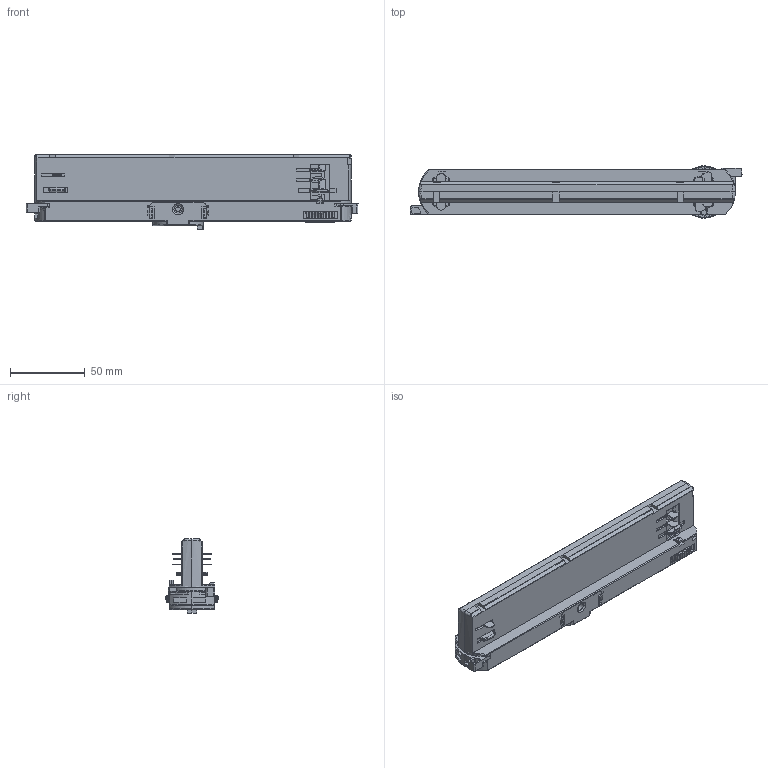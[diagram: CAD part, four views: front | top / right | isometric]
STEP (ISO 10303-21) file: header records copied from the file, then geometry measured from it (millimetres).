
FILE_DESCRIPTION(/* description */ (''),/* implementation_level */ '2;1');
FILE_NAME(/* name */ 'FDS-12~3',/* time_stamp */ '2023-07-05T17:19:38+08:00',/* author */ (''),/* organization */ (''),/* preprocessor_version */ 'ST-DEVELOPER v16.5',/* originating_system */ '',/* authorisation */ '');
FILE_SCHEMA (('AUTOMOTIVE_DESIGN'));
Products named in the file (1): Document
Bounding box: 222.1 x 34.99 x 50 mm (x, y, z)
Volume: 2326.2 mm3; surface area: 42990.2 mm2
Topology: 1 solids, 2 shells, 1830 faces, 4774 edges, 2944 vertices
Faces by surface type: bspline 1118, plane 712
Entity records: 162658 total; most frequent: CARTESIAN_POINT 133477, ORIENTED_EDGE 9547, EDGE_CURVE 4774, B_SPLINE_CURVE_WITH_KNOTS 3691, VERTEX_POINT 2944, EDGE_LOOP 1863, ADVANCED_FACE 1830, FACE_OUTER_BOUND 1830
